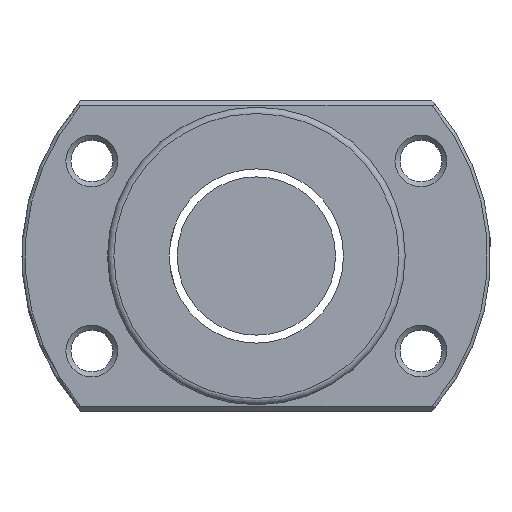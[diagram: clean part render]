
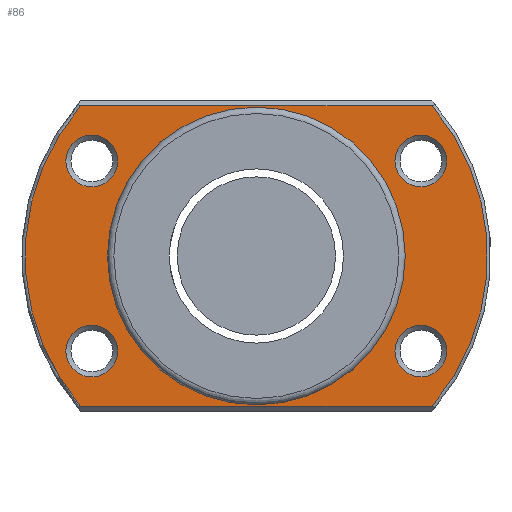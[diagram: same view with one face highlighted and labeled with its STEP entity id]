
A CAD part, left-side view. The second image highlights one B-rep face of the part: STEP entity #86.
In plain terms, the highlighted planar face has unit normal (-1, 0, 0).
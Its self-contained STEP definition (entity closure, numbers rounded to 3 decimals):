
#10 = ORIENTED_EDGE ( 'NONE', *, *, #2326, .T. ) ;
#16 = DIRECTION ( 'NONE',  ( -1., 0., 0. ) ) ;
#61 = EDGE_CURVE ( 'NONE', #2129, #2129, #448, .T. ) ;
#86 = ADVANCED_FACE ( 'NONE', ( #1829, #1153, #1616, #1136, #720, #2552 ), #1874, .T. ) ;
#197 = ORIENTED_EDGE ( 'NONE', *, *, #294, .T. ) ;
#222 = CARTESIAN_POINT ( 'NONE',  ( -43., 37., 0. ) ) ;
#235 = VECTOR ( 'NONE', #1699, 1000. ) ;
#282 = DIRECTION ( 'NONE',  ( 1., 0., 0. ) ) ;
#294 = EDGE_CURVE ( 'NONE', #782, #782, #2257, .T. ) ;
#381 = AXIS2_PLACEMENT_3D ( 'NONE', #596, #1069, #1027 ) ;
#396 = VERTEX_POINT ( 'NONE', #1063 ) ;
#448 = CIRCLE ( 'NONE', #2413, 4.1 ) ;
#466 = CARTESIAN_POINT ( 'NONE',  ( -43., -27.759, 23.7 ) ) ;
#474 = CIRCLE ( 'NONE', #876, 4.1 ) ;
#505 = DIRECTION ( 'NONE',  ( 0., 0., 1. ) ) ;
#596 = CARTESIAN_POINT ( 'NONE',  ( -43., 0., 0. ) ) ;
#608 = EDGE_CURVE ( 'NONE', #1029, #1286, #799, .T. ) ;
#707 = AXIS2_PLACEMENT_3D ( 'NONE', #222, #16, #2083 ) ;
#720 = FACE_BOUND ( 'NONE', #2966, .T. ) ;
#782 = VERTEX_POINT ( 'NONE', #1462 ) ;
#787 = CARTESIAN_POINT ( 'NONE',  ( -43., 25.981, -15. ) ) ;
#799 = CIRCLE ( 'NONE', #1425, 36.5 ) ;
#829 = CARTESIAN_POINT ( 'NONE',  ( -43., 25.981, 15. ) ) ;
#832 = AXIS2_PLACEMENT_3D ( 'NONE', #1235, #2449, #2168 ) ;
#876 = AXIS2_PLACEMENT_3D ( 'NONE', #787, #282, #1683 ) ;
#977 = CIRCLE ( 'NONE', #2446, 4.1 ) ;
#999 = ORIENTED_EDGE ( 'NONE', *, *, #2724, .T. ) ;
#1027 = DIRECTION ( 'NONE',  ( 0., 0., 1. ) ) ;
#1029 = VERTEX_POINT ( 'NONE', #1880 ) ;
#1049 = AXIS2_PLACEMENT_3D ( 'NONE', #829, #1758, #2723 ) ;
#1052 = CARTESIAN_POINT ( 'NONE',  ( -43., 0., -23.5 ) ) ;
#1063 = CARTESIAN_POINT ( 'NONE',  ( -43., -25.981, 19.1 ) ) ;
#1069 = DIRECTION ( 'NONE',  ( -1., 0., 0. ) ) ;
#1074 = VERTEX_POINT ( 'NONE', #2792 ) ;
#1093 = VERTEX_POINT ( 'NONE', #1052 ) ;
#1103 = ORIENTED_EDGE ( 'NONE', *, *, #2234, .T. ) ;
#1112 = LINE ( 'NONE', #2647, #2198 ) ;
#1136 = FACE_BOUND ( 'NONE', #2287, .T. ) ;
#1153 = FACE_BOUND ( 'NONE', #1641, .T. ) ;
#1178 = DIRECTION ( 'NONE',  ( 0., 0., 1. ) ) ;
#1235 = CARTESIAN_POINT ( 'NONE',  ( -43., 0., 0. ) ) ;
#1286 = VERTEX_POINT ( 'NONE', #466 ) ;
#1342 = ORIENTED_EDGE ( 'NONE', *, *, #2839, .T. ) ;
#1425 = AXIS2_PLACEMENT_3D ( 'NONE', #1691, #1676, #2628 ) ;
#1444 = CARTESIAN_POINT ( 'NONE',  ( -43., -25.981, -10.9 ) ) ;
#1450 = CARTESIAN_POINT ( 'NONE',  ( -43., 27.759, 23.7 ) ) ;
#1462 = CARTESIAN_POINT ( 'NONE',  ( -43., 25.981, 19.1 ) ) ;
#1469 = CARTESIAN_POINT ( 'NONE',  ( -43., 37., -23.7 ) ) ;
#1564 = VERTEX_POINT ( 'NONE', #1450 ) ;
#1579 = EDGE_CURVE ( 'NONE', #1074, #1029, #2381, .T. ) ;
#1615 = CIRCLE ( 'NONE', #381, 36.5 ) ;
#1616 = FACE_BOUND ( 'NONE', #2247, .T. ) ;
#1641 = EDGE_LOOP ( 'NONE', ( #2232 ) ) ;
#1657 = CARTESIAN_POINT ( 'NONE',  ( -43., -25.981, -15. ) ) ;
#1676 = DIRECTION ( 'NONE',  ( -1., 0., 0. ) ) ;
#1683 = DIRECTION ( 'NONE',  ( 0., 0., 1. ) ) ;
#1691 = CARTESIAN_POINT ( 'NONE',  ( -43., 0., 0. ) ) ;
#1699 = DIRECTION ( 'NONE',  ( 0., -1., 0. ) ) ;
#1700 = EDGE_CURVE ( 'NONE', #2443, #2443, #474, .T. ) ;
#1735 = ORIENTED_EDGE ( 'NONE', *, *, #1700, .T. ) ;
#1758 = DIRECTION ( 'NONE',  ( 1., 0., 0. ) ) ;
#1796 = EDGE_LOOP ( 'NONE', ( #2276, #1963, #1342, #10 ) ) ;
#1829 = FACE_BOUND ( 'NONE', #2078, .T. ) ;
#1874 = PLANE ( 'NONE',  #707 ) ;
#1880 = CARTESIAN_POINT ( 'NONE',  ( -43., -27.759, -23.7 ) ) ;
#1963 = ORIENTED_EDGE ( 'NONE', *, *, #608, .T. ) ;
#2057 = CARTESIAN_POINT ( 'NONE',  ( -43., -25.981, 15. ) ) ;
#2078 = EDGE_LOOP ( 'NONE', ( #1735 ) ) ;
#2083 = DIRECTION ( 'NONE',  ( 0., 0., 1. ) ) ;
#2129 = VERTEX_POINT ( 'NONE', #1444 ) ;
#2168 = DIRECTION ( 'NONE',  ( 0., 0., -1. ) ) ;
#2198 = VECTOR ( 'NONE', #2426, 1000. ) ;
#2208 = CARTESIAN_POINT ( 'NONE',  ( -43., 25.981, -10.9 ) ) ;
#2232 = ORIENTED_EDGE ( 'NONE', *, *, #61, .T. ) ;
#2234 = EDGE_CURVE ( 'NONE', #1093, #1093, #2973, .T. ) ;
#2247 = EDGE_LOOP ( 'NONE', ( #999 ) ) ;
#2257 = CIRCLE ( 'NONE', #1049, 4.1 ) ;
#2276 = ORIENTED_EDGE ( 'NONE', *, *, #1579, .T. ) ;
#2287 = EDGE_LOOP ( 'NONE', ( #197 ) ) ;
#2326 = EDGE_CURVE ( 'NONE', #1564, #1074, #1615, .T. ) ;
#2345 = DIRECTION ( 'NONE',  ( 1., 0., 0. ) ) ;
#2381 = LINE ( 'NONE', #1469, #235 ) ;
#2413 = AXIS2_PLACEMENT_3D ( 'NONE', #1657, #2819, #505 ) ;
#2426 = DIRECTION ( 'NONE',  ( 0., 1., 0. ) ) ;
#2443 = VERTEX_POINT ( 'NONE', #2208 ) ;
#2446 = AXIS2_PLACEMENT_3D ( 'NONE', #2057, #2345, #1178 ) ;
#2449 = DIRECTION ( 'NONE',  ( 1., 0., 0. ) ) ;
#2552 = FACE_OUTER_BOUND ( 'NONE', #1796, .T. ) ;
#2628 = DIRECTION ( 'NONE',  ( 0., 0., 1. ) ) ;
#2647 = CARTESIAN_POINT ( 'NONE',  ( -43., 37., 23.7 ) ) ;
#2723 = DIRECTION ( 'NONE',  ( 0., 0., 1. ) ) ;
#2724 = EDGE_CURVE ( 'NONE', #396, #396, #977, .T. ) ;
#2792 = CARTESIAN_POINT ( 'NONE',  ( -43., 27.759, -23.7 ) ) ;
#2819 = DIRECTION ( 'NONE',  ( 1., 0., 0. ) ) ;
#2839 = EDGE_CURVE ( 'NONE', #1286, #1564, #1112, .T. ) ;
#2966 = EDGE_LOOP ( 'NONE', ( #1103 ) ) ;
#2973 = CIRCLE ( 'NONE', #832, 23.5 ) ;
